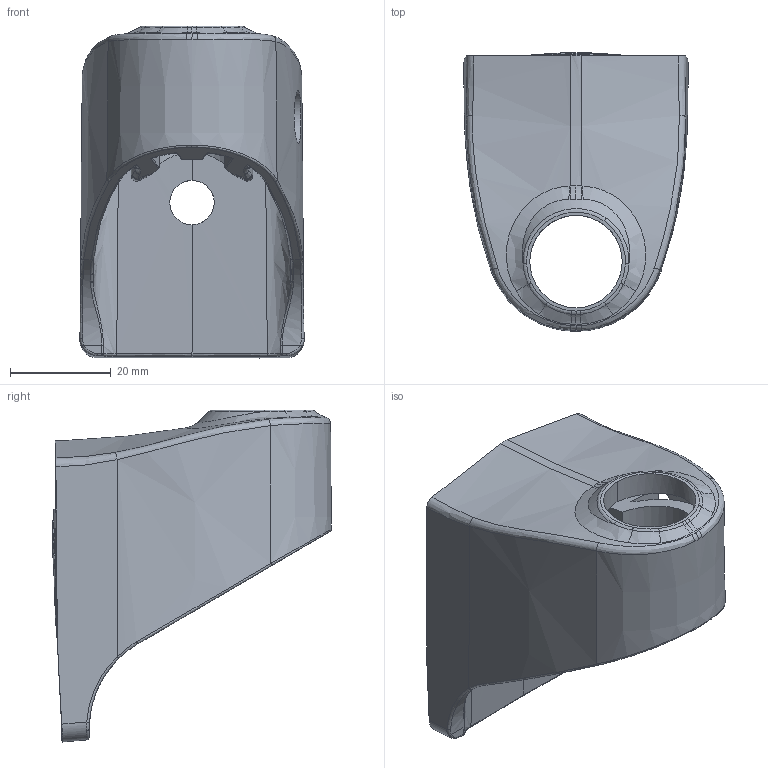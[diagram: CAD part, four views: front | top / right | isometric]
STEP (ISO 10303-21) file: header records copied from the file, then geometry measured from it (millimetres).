
FILE_DESCRIPTION (( 'STEP AP214' ), '1' );
FILE_NAME ('FGRF 42X18VH.step', '2017-04-05T07:43:17', ( '' ), ( '' ), 'SwSTEP 2.0', 'SolidWorks 2015', '' );
FILE_SCHEMA (( 'AUTOMOTIVE_DESIGN' ));
Products named in the file (1): FGRF 42X18VH
Bounding box: 44.44 x 55.26 x 65.82 mm (x, y, z)
Volume: 28169.3 mm3; surface area: 20308.7 mm2
Topology: 1 solids, 1 shells, 749 faces, 1821 edges, 1060 vertices
Faces by surface type: bspline 594, cylinder 70, plane 69, cone 16
Entity records: 89910 total; most frequent: CARTESIAN_POINT 77825, ORIENTED_EDGE 3608, EDGE_CURVE 1804, B_SPLINE_CURVE_WITH_KNOTS 1605, VERTEX_POINT 1060, EDGE_LOOP 764, FACE_OUTER_BOUND 749, ADVANCED_FACE 749
